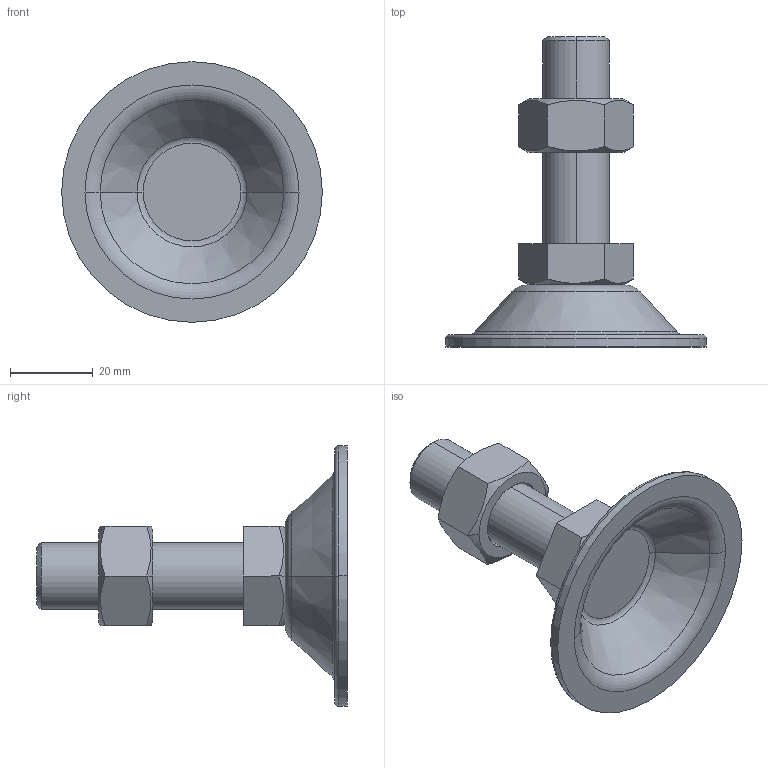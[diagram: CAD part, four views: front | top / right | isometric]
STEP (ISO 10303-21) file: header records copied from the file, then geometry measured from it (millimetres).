
FILE_DESCRIPTION (( 'STEP AP214' ), '1' );
FILE_NAME ('BL63-M16-50.step', '2021-01-06T05:39:25', ( '' ), ( '' ), 'SwSTEP 2.0', 'SolidWorks 2019', '' );
FILE_SCHEMA (( 'AUTOMOTIVE_DESIGN' ));
Length unit declared in the file: millimetre
Products named in the file (1): BL63-M16-50
Bounding box: 63 x 75 x 63 mm (x, y, z)
Volume: 29809.7 mm3; surface area: 14379.8 mm2
Topology: 3 solids, 3 shells, 53 faces, 110 edges, 66 vertices
Faces by surface type: plane 21, cone 16, torus 10, cylinder 6
Entity records: 1618 total; most frequent: CARTESIAN_POINT 428, DIRECTION 252, ORIENTED_EDGE 220, EDGE_CURVE 110, AXIS2_PLACEMENT_3D 106, VERTEX_POINT 66, EDGE_LOOP 58, ADVANCED_FACE 53
